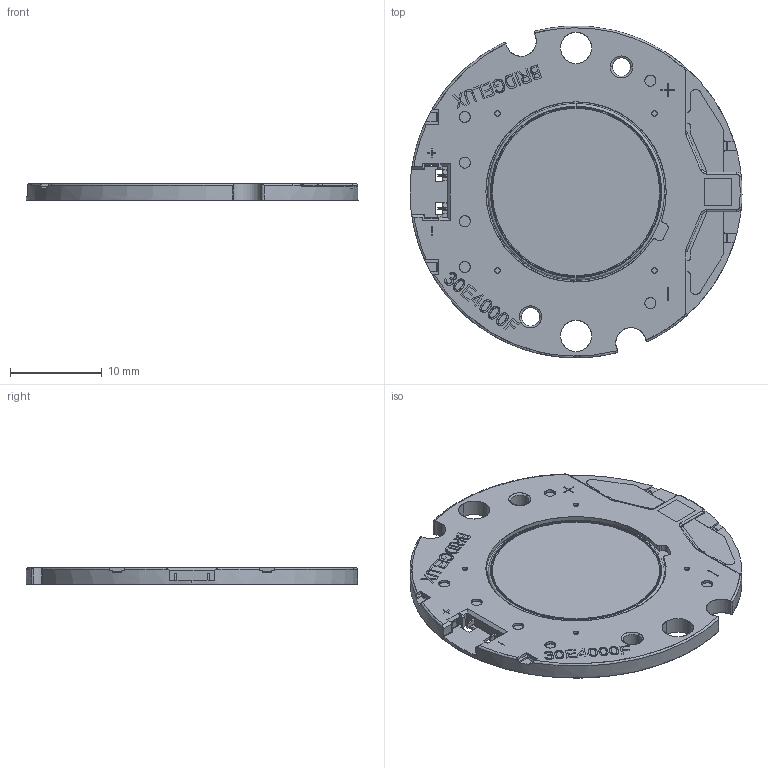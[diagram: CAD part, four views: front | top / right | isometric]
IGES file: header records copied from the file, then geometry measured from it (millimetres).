
Start section: SolidWorks IGES file using analytic representation for surfaces
Global section: file name: D:\Users\5160206\Desktop\3D document\GEN8\Assembly\Vero18\Vero\GEN8 Vero18.IGS; native system: SolidWorks 2018; preprocessor: SolidWorks 2018; author: 5160206; date: 200912.162136; units: millimetre
Bounding box: 36.2 x 36.19 x 1.8 mm (x, y, z)
Surface area: 3164.8 mm2 (no closed solid volume)
Topology: 0 solids, 0 shells, 1017 faces, 9644 edges, 9635 vertices
Faces by surface type: bspline 680, revolution 337
